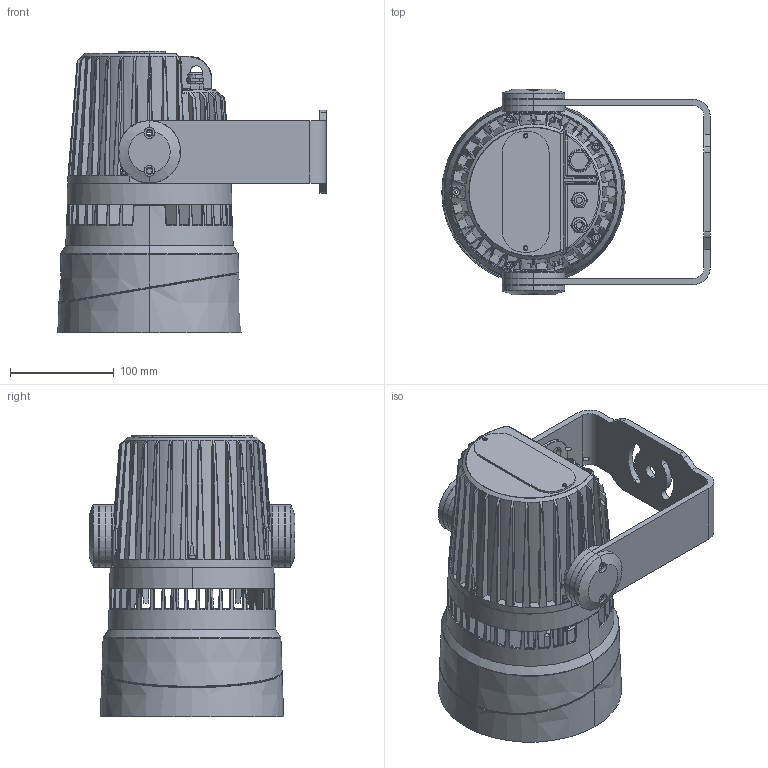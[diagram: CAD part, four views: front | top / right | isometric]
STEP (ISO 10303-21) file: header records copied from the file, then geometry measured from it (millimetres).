
FILE_DESCRIPTION (( 'STEP AP203' ), '1' );
FILE_NAME ('ew100-Faces-with-snoot.STEP', '2016-01-18T07:12:08', ( 'Martin Gruppen A/S' ), ( 'Martin Gruppen A/S' ), 'SwSTEP 2.0', 'SolidWorks 2014', '' );
FILE_SCHEMA (( 'CONFIG_CONTROL_DESIGN' ));
Products named in the file (1): ew100-Faces-with-snoot
Bounding box: 258.15 x 198 x 271.2 mm (x, y, z)
Surface area: 408148.9 mm2 (no closed solid volume)
Topology: 0 solids, 74 shells, 1274 faces, 5506 edges, 4234 vertices
Faces by surface type: cylinder 476, plane 371, bspline 277, cone 150
Full cylindrical faces by diameter (mm): 6 x2
Entity records: 98434 total; most frequent: CARTESIAN_POINT 63068, ORIENTED_EDGE 8084, EDGE_CURVE 5486, DIRECTION 4380, VERTEX_POINT 4234, B_SPLINE_CURVE_WITH_KNOTS 3567, AXIS2_PLACEMENT_3D 1686, EDGE_LOOP 1388
